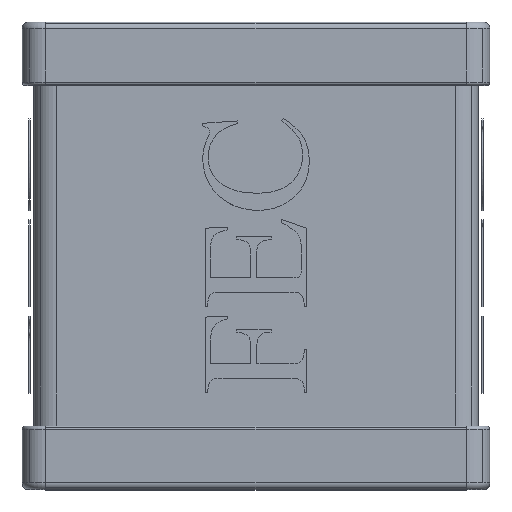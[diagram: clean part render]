
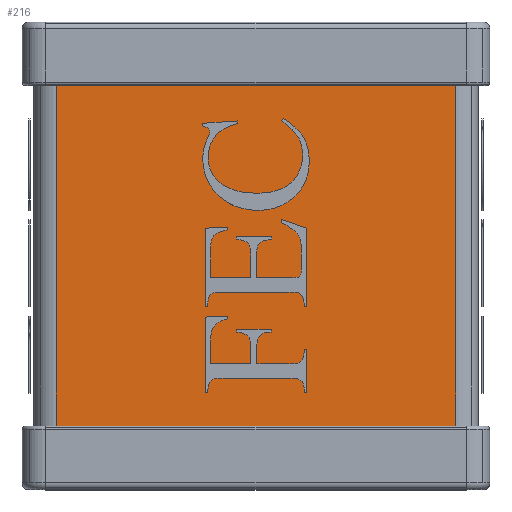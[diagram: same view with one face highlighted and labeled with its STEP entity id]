
A CAD part, top view. The second image highlights one B-rep face of the part: STEP entity #216.
In plain terms, the highlighted planar face has unit normal (0, 0, 1).
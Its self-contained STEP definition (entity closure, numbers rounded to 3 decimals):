
#216=ADVANCED_FACE('',(#1345),#1346,.T.);
#1345=FACE_OUTER_BOUND('',#3564,.T.);
#1346=PLANE('',#3565);
#3564=EDGE_LOOP('',(#5838,#5839,#5840,#5841));
#3565=AXIS2_PLACEMENT_3D('',#5842,#5843,#5844);
#5838=ORIENTED_EDGE('',*,*,#15484,.T.);
#5839=ORIENTED_EDGE('',*,*,#15464,.F.);
#5840=ORIENTED_EDGE('',*,*,#15485,.F.);
#5841=ORIENTED_EDGE('',*,*,#15482,.T.);
#5842=CARTESIAN_POINT('',(-1.197,-0.38,0.846));
#5843=DIRECTION('',(-0.0,0.0,1.0));
#5844=DIRECTION('',(1.0,-0.0,0.0));
#15464=EDGE_CURVE('',#18675,#18677,#18678,.T.);
#15482=EDGE_CURVE('',#18703,#18701,#18704,.T.);
#15484=EDGE_CURVE('',#18701,#18677,#18706,.T.);
#15485=EDGE_CURVE('',#18703,#18675,#18707,.T.);
#18675=VERTEX_POINT('',#23978);
#18677=VERTEX_POINT('',#23980);
#18678=LINE('',#23981,#23982);
#18701=VERTEX_POINT('',#24014);
#18703=VERTEX_POINT('',#24016);
#18704=LINE('',#24017,#24018);
#18706=LINE('',#24020,#24021);
#18707=LINE('',#24022,#24023);
#23978=CARTESIAN_POINT('',(1.197,-0.38,0.846));
#23980=CARTESIAN_POINT('',(1.197,-2.42,0.846));
#23981=CARTESIAN_POINT('',(1.197,-0.38,0.846));
#23982=VECTOR('',#32324,1.0);
#24014=CARTESIAN_POINT('',(-1.197,-2.42,0.846));
#24016=CARTESIAN_POINT('',(-1.197,-0.38,0.846));
#24017=CARTESIAN_POINT('',(-1.197,-0.38,0.846));
#24018=VECTOR('',#32358,1.0);
#24020=CARTESIAN_POINT('',(-1.197,-2.42,0.846));
#24021=VECTOR('',#32362,1.0);
#24022=CARTESIAN_POINT('',(-1.197,-0.38,0.846));
#24023=VECTOR('',#32363,1.0);
#32324=DIRECTION('',(0.0,-1.0,0.0));
#32358=DIRECTION('',(0.0,-1.0,0.0));
#32362=DIRECTION('',(1.0,0.0,0.0));
#32363=DIRECTION('',(1.0,0.0,0.0));
